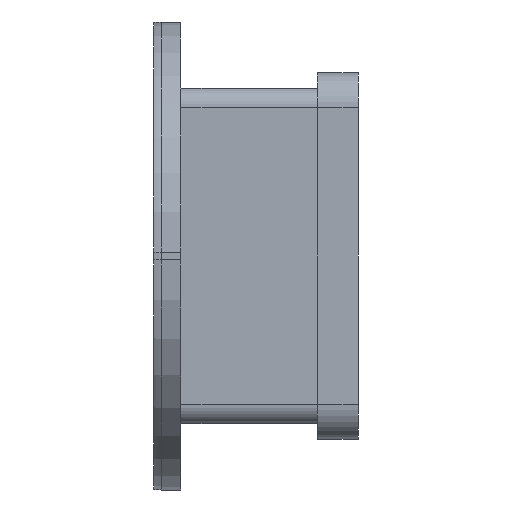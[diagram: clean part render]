
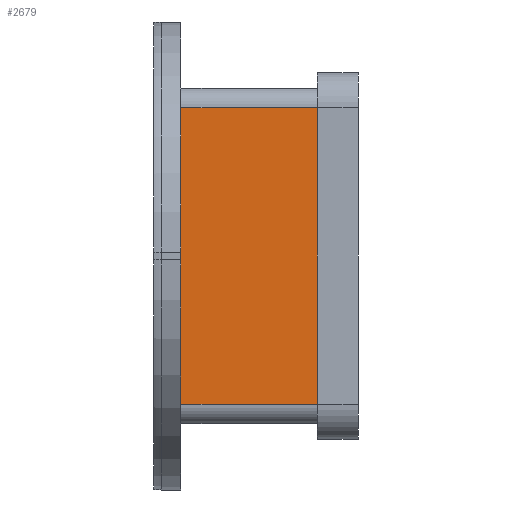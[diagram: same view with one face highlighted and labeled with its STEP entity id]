
A CAD part, front view. The second image highlights one B-rep face of the part: STEP entity #2679.
In plain terms, the highlighted planar face has unit normal (0, -1, 0).
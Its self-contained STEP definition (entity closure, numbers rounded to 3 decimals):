
#568 = PLANE('',#569);
#569 = AXIS2_PLACEMENT_3D('',#570,#571,#572);
#570 = CARTESIAN_POINT('',(-39.3,12.,-12.));
#571 = DIRECTION('',(-1.,0.,0.));
#572 = DIRECTION('',(0.,0.,1.));
#1545 = VERTEX_POINT('',#1546);
#1546 = CARTESIAN_POINT('',(-39.3,-8.6,-8.2));
#1561 = CYLINDRICAL_SURFACE('',#1562,0.5);
#1562 = AXIS2_PLACEMENT_3D('',#1563,#1564,#1565);
#1563 = CARTESIAN_POINT('',(-35.75,-8.1,-8.2));
#1564 = DIRECTION('',(-1.,0.,0.));
#1565 = DIRECTION('',(0.,-1.,0.));
#1573 = EDGE_CURVE('',#1574,#1545,#1576,.T.);
#1574 = VERTEX_POINT('',#1575);
#1575 = CARTESIAN_POINT('',(-39.3,-8.6,-15.8));
#1576 = SURFACE_CURVE('',#1577,(#1581,#1588),.PCURVE_S1.);
#1577 = LINE('',#1578,#1579);
#1578 = CARTESIAN_POINT('',(-39.3,-8.6,-13.9));
#1579 = VECTOR('',#1580,1.);
#1580 = DIRECTION('',(0.,0.,1.));
#1581 = PCURVE('',#568,#1582);
#1582 = DEFINITIONAL_REPRESENTATION('',(#1583),#1587);
#1583 = LINE('',#1584,#1585);
#1584 = CARTESIAN_POINT('',(-1.9,-20.6));
#1585 = VECTOR('',#1586,1.);
#1586 = DIRECTION('',(1.,0.));
#1587 = ( GEOMETRIC_REPRESENTATION_CONTEXT(2) 
PARAMETRIC_REPRESENTATION_CONTEXT() REPRESENTATION_CONTEXT('2D SPACE',''
  ) );
#1588 = PCURVE('',#1589,#1594);
#1589 = PLANE('',#1590);
#1590 = AXIS2_PLACEMENT_3D('',#1591,#1592,#1593);
#1591 = CARTESIAN_POINT('',(-35.75,-8.6,-15.8));
#1592 = DIRECTION('',(0.,-1.,0.));
#1593 = DIRECTION('',(0.,0.,1.));
#1594 = DEFINITIONAL_REPRESENTATION('',(#1595),#1599);
#1595 = LINE('',#1596,#1597);
#1596 = CARTESIAN_POINT('',(1.9,3.55));
#1597 = VECTOR('',#1598,1.);
#1598 = DIRECTION('',(1.,0.));
#1599 = ( GEOMETRIC_REPRESENTATION_CONTEXT(2) 
PARAMETRIC_REPRESENTATION_CONTEXT() REPRESENTATION_CONTEXT('2D SPACE',''
  ) );
#1616 = CYLINDRICAL_SURFACE('',#1617,0.5);
#1617 = AXIS2_PLACEMENT_3D('',#1618,#1619,#1620);
#1618 = CARTESIAN_POINT('',(-35.75,-8.1,-15.8));
#1619 = DIRECTION('',(-1.,0.,0.));
#1620 = DIRECTION('',(0.,0.,-1.));
#2476 = PLANE('',#2477);
#2477 = AXIS2_PLACEMENT_3D('',#2478,#2479,#2480);
#2478 = CARTESIAN_POINT('',(-35.8,-8.,-12.));
#2479 = DIRECTION('',(-1.,0.,0.));
#2480 = DIRECTION('',(0.,0.,1.));
#2585 = VERTEX_POINT('',#2586);
#2586 = CARTESIAN_POINT('',(-35.8,-8.6,-15.8));
#2608 = EDGE_CURVE('',#2585,#1574,#2609,.T.);
#2609 = SURFACE_CURVE('',#2610,(#2614,#2621),.PCURVE_S1.);
#2610 = LINE('',#2611,#2612);
#2611 = CARTESIAN_POINT('',(-35.75,-8.6,-15.8));
#2612 = VECTOR('',#2613,1.);
#2613 = DIRECTION('',(-1.,0.,0.));
#2614 = PCURVE('',#1616,#2615);
#2615 = DEFINITIONAL_REPRESENTATION('',(#2616),#2620);
#2616 = LINE('',#2617,#2618);
#2617 = CARTESIAN_POINT('',(1.571,0.));
#2618 = VECTOR('',#2619,1.);
#2619 = DIRECTION('',(0.,1.));
#2620 = ( GEOMETRIC_REPRESENTATION_CONTEXT(2) 
PARAMETRIC_REPRESENTATION_CONTEXT() REPRESENTATION_CONTEXT('2D SPACE',''
  ) );
#2621 = PCURVE('',#1589,#2622);
#2622 = DEFINITIONAL_REPRESENTATION('',(#2623),#2627);
#2623 = LINE('',#2624,#2625);
#2624 = CARTESIAN_POINT('',(0.,0.));
#2625 = VECTOR('',#2626,1.);
#2626 = DIRECTION('',(0.,1.));
#2627 = ( GEOMETRIC_REPRESENTATION_CONTEXT(2) 
PARAMETRIC_REPRESENTATION_CONTEXT() REPRESENTATION_CONTEXT('2D SPACE',''
  ) );
#2679 = ADVANCED_FACE('',(#2680),#1589,.T.);
#2680 = FACE_BOUND('',#2681,.T.);
#2681 = EDGE_LOOP('',(#2682,#2705,#2726,#2727));
#2682 = ORIENTED_EDGE('',*,*,#2683,.T.);
#2683 = EDGE_CURVE('',#2585,#2684,#2686,.T.);
#2684 = VERTEX_POINT('',#2685);
#2685 = CARTESIAN_POINT('',(-35.8,-8.6,-8.2));
#2686 = SURFACE_CURVE('',#2687,(#2691,#2698),.PCURVE_S1.);
#2687 = LINE('',#2688,#2689);
#2688 = CARTESIAN_POINT('',(-35.8,-8.6,-13.9));
#2689 = VECTOR('',#2690,1.);
#2690 = DIRECTION('',(0.,0.,1.));
#2691 = PCURVE('',#1589,#2692);
#2692 = DEFINITIONAL_REPRESENTATION('',(#2693),#2697);
#2693 = LINE('',#2694,#2695);
#2694 = CARTESIAN_POINT('',(1.9,0.05));
#2695 = VECTOR('',#2696,1.);
#2696 = DIRECTION('',(1.,0.));
#2697 = ( GEOMETRIC_REPRESENTATION_CONTEXT(2) 
PARAMETRIC_REPRESENTATION_CONTEXT() REPRESENTATION_CONTEXT('2D SPACE',''
  ) );
#2698 = PCURVE('',#2476,#2699);
#2699 = DEFINITIONAL_REPRESENTATION('',(#2700),#2704);
#2700 = LINE('',#2701,#2702);
#2701 = CARTESIAN_POINT('',(-1.9,-0.6));
#2702 = VECTOR('',#2703,1.);
#2703 = DIRECTION('',(1.,0.));
#2704 = ( GEOMETRIC_REPRESENTATION_CONTEXT(2) 
PARAMETRIC_REPRESENTATION_CONTEXT() REPRESENTATION_CONTEXT('2D SPACE',''
  ) );
#2705 = ORIENTED_EDGE('',*,*,#2706,.T.);
#2706 = EDGE_CURVE('',#2684,#1545,#2707,.T.);
#2707 = SURFACE_CURVE('',#2708,(#2712,#2719),.PCURVE_S1.);
#2708 = LINE('',#2709,#2710);
#2709 = CARTESIAN_POINT('',(-35.75,-8.6,-8.2));
#2710 = VECTOR('',#2711,1.);
#2711 = DIRECTION('',(-1.,0.,0.));
#2712 = PCURVE('',#1589,#2713);
#2713 = DEFINITIONAL_REPRESENTATION('',(#2714),#2718);
#2714 = LINE('',#2715,#2716);
#2715 = CARTESIAN_POINT('',(7.6,0.));
#2716 = VECTOR('',#2717,1.);
#2717 = DIRECTION('',(0.,1.));
#2718 = ( GEOMETRIC_REPRESENTATION_CONTEXT(2) 
PARAMETRIC_REPRESENTATION_CONTEXT() REPRESENTATION_CONTEXT('2D SPACE',''
  ) );
#2719 = PCURVE('',#1561,#2720);
#2720 = DEFINITIONAL_REPRESENTATION('',(#2721),#2725);
#2721 = LINE('',#2722,#2723);
#2722 = CARTESIAN_POINT('',(0.,0.));
#2723 = VECTOR('',#2724,1.);
#2724 = DIRECTION('',(0.,1.));
#2725 = ( GEOMETRIC_REPRESENTATION_CONTEXT(2) 
PARAMETRIC_REPRESENTATION_CONTEXT() REPRESENTATION_CONTEXT('2D SPACE',''
  ) );
#2726 = ORIENTED_EDGE('',*,*,#1573,.F.);
#2727 = ORIENTED_EDGE('',*,*,#2608,.F.);
